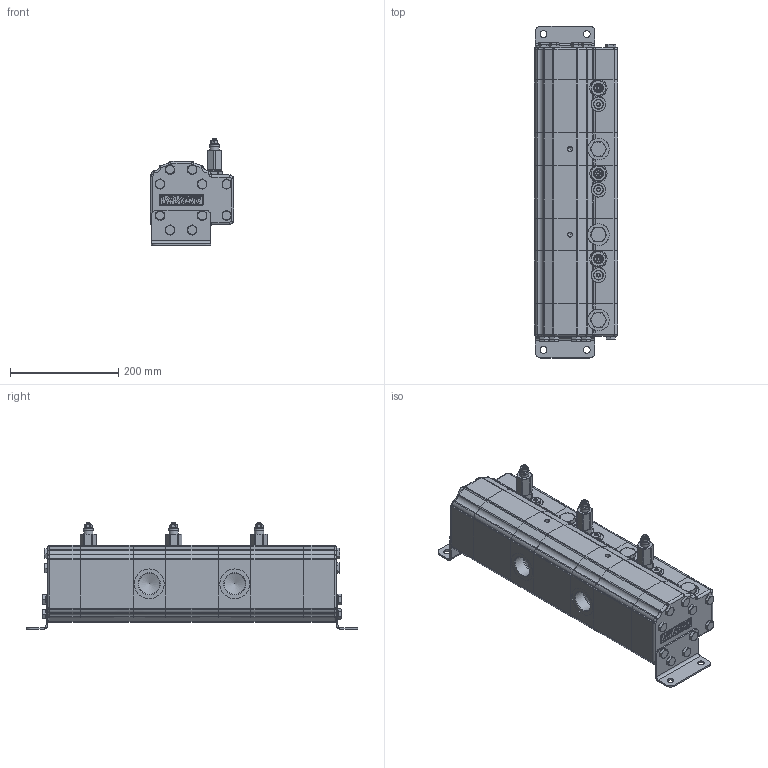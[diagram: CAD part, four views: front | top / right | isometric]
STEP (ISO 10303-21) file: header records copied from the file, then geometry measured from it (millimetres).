
FILE_DESCRIPTION(/* description */ ('Unknown'),/* implementation_level */ '2;1');
FILE_NAME(/* name */ '9V03-82',/* time_stamp */ '2020-04-18T11:44:15+02:00',/* author */ ('Unknown'),/* organization */ ('Unknown'),/* preprocessor_version */ 'ST-DEVELOPER v16.7',/* originating_system */ 'DEX',/* authorisation */ $);
FILE_SCHEMA (('AP242_MANAGED_MODEL_BASED_3D_ENGINEERING_MIM_LF { 1 0 10303 442 1 1 4 }','AUTOMOTIVE_DESIGN {1 0 10303 214 3 1 1}'));
Products named in the file (1): XV-3V
Bounding box: 155 x 614 x 197 mm (x, y, z)
Volume: 9835251.9 mm3; surface area: 398597.1 mm2
Topology: 1 solids, 1 shells, 1299 faces, 3171 edges, 1932 vertices
Faces by surface type: plane 595, cylinder 504, cone 93, bspline 72, torus 35
Full cylindrical faces by diameter (mm): 8 x3, 8.376 x4, 12.5 x4, 16 x20, 17 x3, 18 x6, 26.5 x6, 27 x3, 30.291 x8, 38.952 x4, 40 x3, 50 x1, 55 x5
Entity records: 56199 total; most frequent: CARTESIAN_POINT 18333, ORIENTED_EDGE 5908, DIRECTION 5784, EDGE_CURVE 2954, AXIS2_PLACEMENT_3D 2180, VERTEX_POINT 1889, FACE_BOUND 1539, EDGE_LOOP 1531
